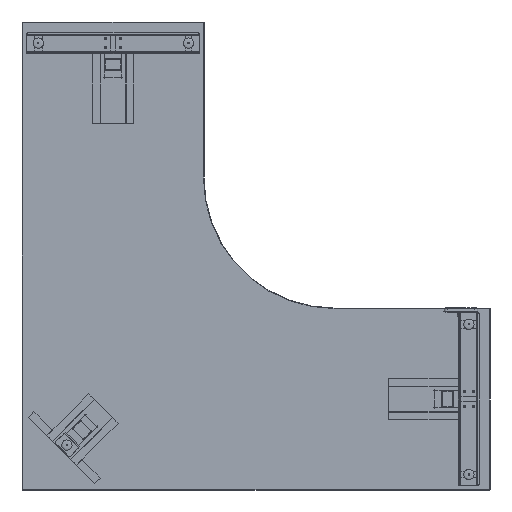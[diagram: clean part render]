
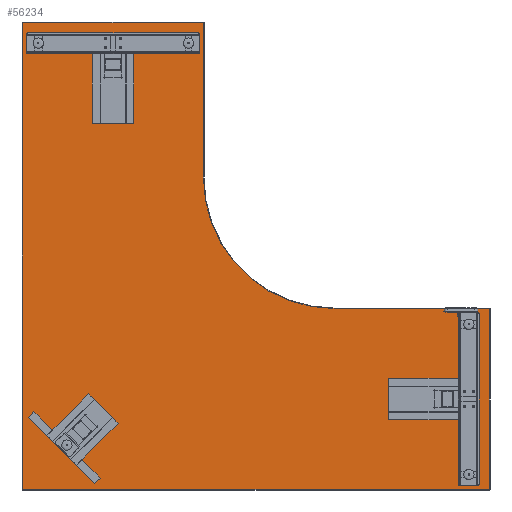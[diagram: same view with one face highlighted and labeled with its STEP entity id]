
A CAD part, front view. The second image highlights one B-rep face of the part: STEP entity #56234.
In plain terms, the highlighted planar face has unit normal (0, -1, 0).
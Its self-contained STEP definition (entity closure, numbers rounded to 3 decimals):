
#5312=CIRCLE('',#62124,502.);
#8484=FACE_OUTER_BOUND('',#11833,.T.);
#11833=EDGE_LOOP('',(#51434,#51435,#51436,#51437,#51438,#51439,#51440));
#16685=LINE('',#116588,#21558);
#16687=LINE('',#116597,#21560);
#16695=LINE('',#116630,#21568);
#16699=LINE('',#116643,#21572);
#16701=LINE('',#116646,#21574);
#16705=LINE('',#116652,#21578);
#21558=VECTOR('',#78432,10.);
#21560=VECTOR('',#78444,10.);
#21568=VECTOR('',#78484,10.);
#21572=VECTOR('',#78500,10.);
#21574=VECTOR('',#78504,10.);
#21578=VECTOR('',#78512,10.);
#26785=VERTEX_POINT('',#116549);
#26794=VERTEX_POINT('',#116576);
#26797=VERTEX_POINT('',#116586);
#26799=VERTEX_POINT('',#116592);
#26801=VERTEX_POINT('',#116601);
#26807=VERTEX_POINT('',#116621);
#26810=VERTEX_POINT('',#116634);
#34986=EDGE_CURVE('',#26797,#26794,#16685,.T.);
#34989=EDGE_CURVE('',#26799,#26797,#5312,.T.);
#34991=EDGE_CURVE('',#26785,#26799,#16687,.T.);
#35008=EDGE_CURVE('',#26794,#26807,#16695,.T.);
#35015=EDGE_CURVE('',#26807,#26810,#16699,.T.);
#35017=EDGE_CURVE('',#26810,#26801,#16701,.T.);
#35021=EDGE_CURVE('',#26801,#26785,#16705,.T.);
#51434=ORIENTED_EDGE('',*,*,#34986,.F.);
#51435=ORIENTED_EDGE('',*,*,#34989,.F.);
#51436=ORIENTED_EDGE('',*,*,#34991,.F.);
#51437=ORIENTED_EDGE('',*,*,#35021,.F.);
#51438=ORIENTED_EDGE('',*,*,#35017,.F.);
#51439=ORIENTED_EDGE('',*,*,#35015,.F.);
#51440=ORIENTED_EDGE('',*,*,#35008,.F.);
#53071=PLANE('',#62157);
#56234=ADVANCED_FACE('',(#8484),#53071,.F.);
#62124=AXIS2_PLACEMENT_3D('',#116594,#78438,#78439);
#62157=AXIS2_PLACEMENT_3D('',#116663,#78528,#78529);
#78432=DIRECTION('',(1.,0.,0.));
#78438=DIRECTION('center_axis',(0.,-1.,0.));
#78439=DIRECTION('ref_axis',(-0.707,0.,-0.707));
#78444=DIRECTION('',(0.,0.,-1.));
#78484=DIRECTION('',(0.,0.,-1.));
#78500=DIRECTION('',(-1.,0.,0.));
#78504=DIRECTION('',(0.,0.,1.));
#78512=DIRECTION('',(1.,0.,0.));
#78528=DIRECTION('center_axis',(0.,1.,0.));
#78529=DIRECTION('ref_axis',(1.,0.,0.));
#116549=CARTESIAN_POINT('',(698.,725.,-2.));
#116576=CARTESIAN_POINT('',(1798.,725.,-1102.));
#116586=CARTESIAN_POINT('',(1200.,725.,-1102.));
#116588=CARTESIAN_POINT('',(1350.,725.,-1102.));
#116592=CARTESIAN_POINT('',(698.,725.,-600.));
#116594=CARTESIAN_POINT('Origin',(1200.,725.,-600.));
#116597=CARTESIAN_POINT('',(698.,725.,-750.));
#116601=CARTESIAN_POINT('',(2.,725.,-2.));
#116621=CARTESIAN_POINT('',(1798.,725.,-1798.));
#116630=CARTESIAN_POINT('',(1798.,725.,-1350.));
#116634=CARTESIAN_POINT('',(2.,725.,-1798.));
#116643=CARTESIAN_POINT('',(450.,725.,-1798.));
#116646=CARTESIAN_POINT('',(2.,725.,-450.));
#116652=CARTESIAN_POINT('',(800.,725.,-2.));
#116663=CARTESIAN_POINT('Origin',(900.,725.,-900.));
